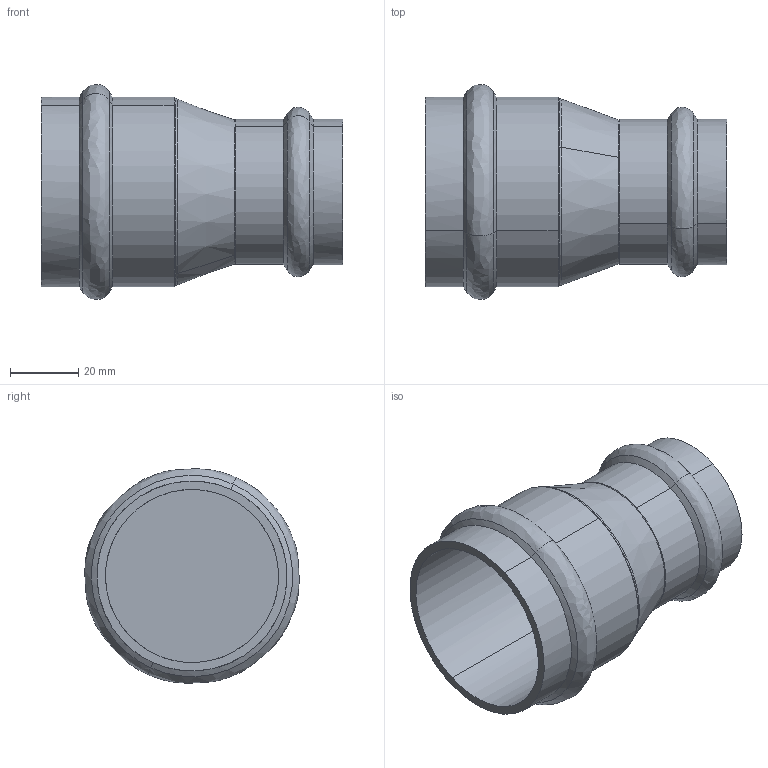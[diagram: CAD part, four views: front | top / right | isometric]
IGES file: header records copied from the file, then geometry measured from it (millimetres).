
Start section: 3D InterOp IGES (Version 25 0 1), Spatial Corp. Copyright (c) 1999-2007.
Global section: file name: pim0004388.igs; native system: Spatial Corp.; preprocessor: 3D InterOp ACIS/IGES; author: Cad-Pim; organization: TransMagic, Inc.; date: 20150430.133047; units: millimetre
Bounding box: 88.5 x 62.93 x 62.93 mm (x, y, z)
Volume: 67630.8 mm3; surface area: 29185.6 mm2
Topology: 1 solids, 1 shells, 36 faces, 97 edges, 65 vertices
Faces by surface type: cone 14, cylinder 12, bspline 10
